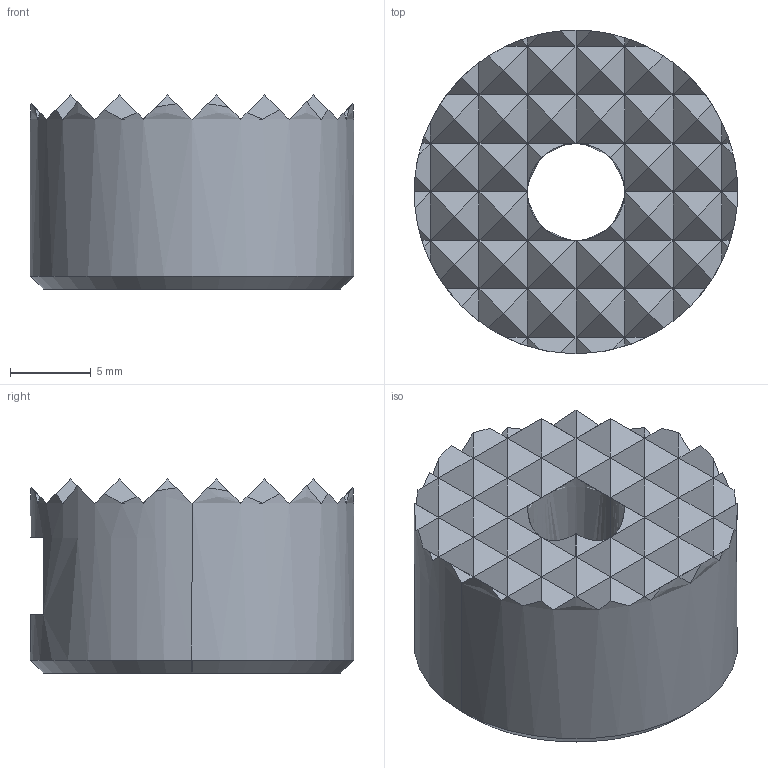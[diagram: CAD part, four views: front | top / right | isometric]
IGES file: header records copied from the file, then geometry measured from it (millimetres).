
Start section: SolidWorks IGES file using analytic representation for surfaces
Global section: file name: X:\11_SW2020-Inv2020\00_全2021-11新製品まで\h\HS-202\hs-202.IGS; native system: SolidWorks 2020; preprocessor: SolidWorks 2020; author: ImaoCorp; date: 211026.101654; units: millimetre
Bounding box: 20 x 20 x 12 mm (x, y, z)
Surface area: 1554 mm2 (no closed solid volume)
Topology: 0 solids, 0 shells, 180 faces, 758 edges, 758 vertices
Faces by surface type: bspline 172, revolution 8
